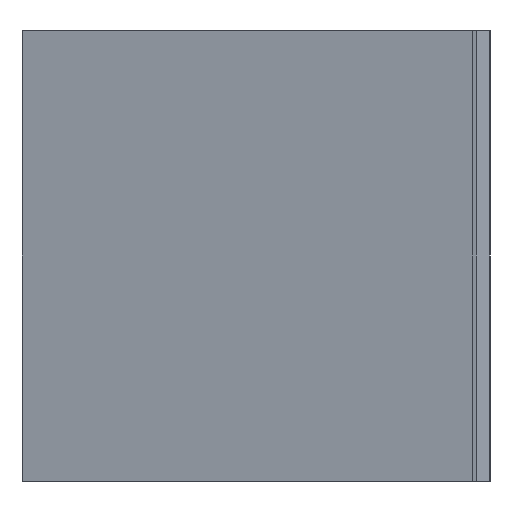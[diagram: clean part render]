
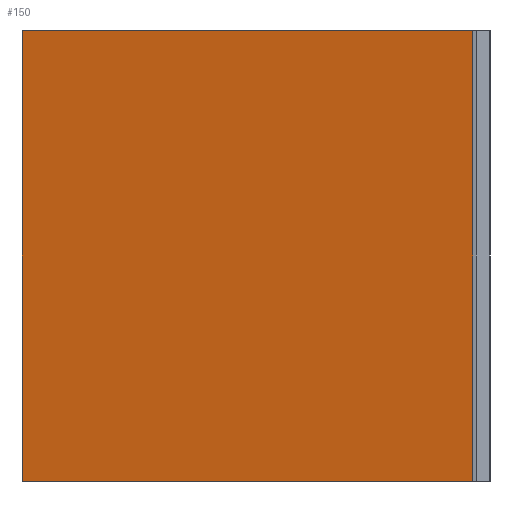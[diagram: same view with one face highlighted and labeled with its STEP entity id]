
A CAD part, left-side view. The second image highlights one B-rep face of the part: STEP entity #150.
In plain terms, the highlighted planar face has unit normal (0.974, -0.225, 0).
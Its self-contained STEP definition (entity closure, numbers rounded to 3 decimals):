
#98=CARTESIAN_POINT('Vertex',(20.,0.,0.)) ;
#101=CARTESIAN_POINT('Line Origine',(20.,0.,65.)) ;
#105=CARTESIAN_POINT('Vertex',(20.,0.,130.)) ;
#120=CARTESIAN_POINT('Axis2P3D Location',(20.,0.,0.)) ;
#125=CARTESIAN_POINT('Line Origine',(35.,65.,0.)) ;
#129=CARTESIAN_POINT('Vertex',(50.,130.,0.)) ;
#132=CARTESIAN_POINT('Line Origine',(50.,130.,65.)) ;
#136=CARTESIAN_POINT('Vertex',(50.,130.,130.)) ;
#139=CARTESIAN_POINT('Line Origine',(35.,65.,130.)) ;
#102=DIRECTION('Vector Direction',(0.,0.,1.)) ;
#121=DIRECTION('Axis2P3D Direction',(0.974,-0.225,0.)) ;
#122=DIRECTION('Axis2P3D XDirection',(0.225,0.974,0.)) ;
#126=DIRECTION('Vector Direction',(0.225,0.974,0.)) ;
#133=DIRECTION('Vector Direction',(0.,0.,1.)) ;
#140=DIRECTION('Vector Direction',(0.225,0.974,0.)) ;
#123=AXIS2_PLACEMENT_3D('Plane Axis2P3D',#120,#121,#122) ;
#145=ORIENTED_EDGE('',*,*,#107,.F.) ;
#146=ORIENTED_EDGE('',*,*,#131,.T.) ;
#147=ORIENTED_EDGE('',*,*,#138,.T.) ;
#148=ORIENTED_EDGE('',*,*,#143,.F.) ;
#103=VECTOR('Line Direction',#102,1.) ;
#127=VECTOR('Line Direction',#126,1.) ;
#134=VECTOR('Line Direction',#133,1.) ;
#141=VECTOR('Line Direction',#140,1.) ;
#150=ADVANCED_FACE('Extrude.1',(#149),#124,.T.) ;
#107=EDGE_CURVE('',#99,#106,#104,.T.) ;
#131=EDGE_CURVE('',#99,#130,#128,.T.) ;
#138=EDGE_CURVE('',#130,#137,#135,.T.) ;
#143=EDGE_CURVE('',#106,#137,#142,.T.) ;
#144=EDGE_LOOP('',(#145,#146,#147,#148)) ;
#149=FACE_OUTER_BOUND('',#144,.T.) ;
#104=LINE('Line',#101,#103) ;
#128=LINE('Line',#125,#127) ;
#135=LINE('Line',#132,#134) ;
#142=LINE('Line',#139,#141) ;
#124=PLANE('',#123) ;
#99=VERTEX_POINT('',#98) ;
#106=VERTEX_POINT('',#105) ;
#130=VERTEX_POINT('',#129) ;
#137=VERTEX_POINT('',#136) ;
